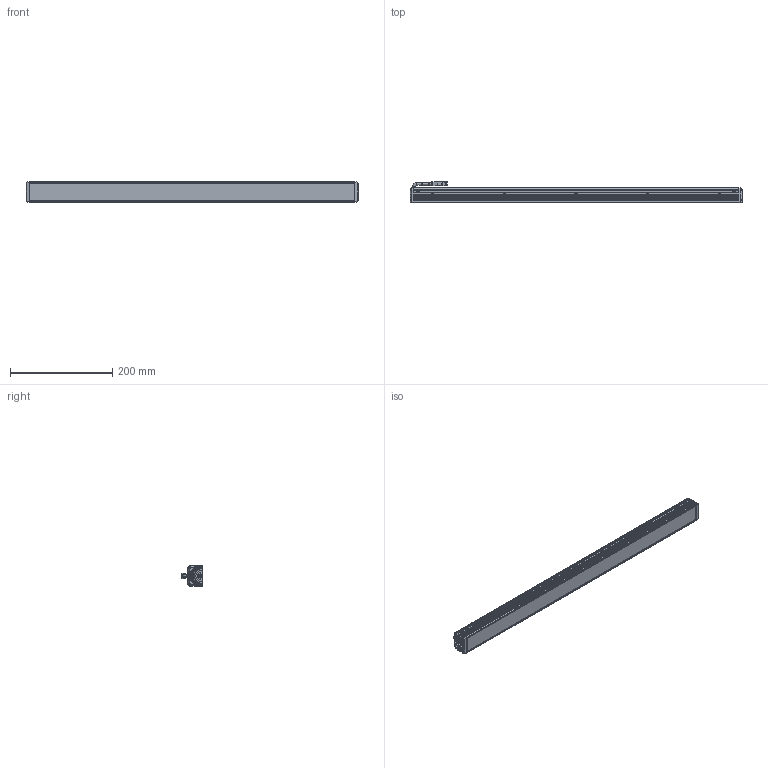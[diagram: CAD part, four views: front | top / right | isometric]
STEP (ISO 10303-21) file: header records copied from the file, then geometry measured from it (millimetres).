
FILE_DESCRIPTION((''),'2;1');
FILE_NAME('MV-LLDS-H-700-40-W-PL_ASM','2024-04-08T14:28:26',('huguozhe'),(''),'CREO PARAMETRIC BY PTC INC, 2020044','CREO PARAMETRIC BY PTC INC, 2020044','');
FILE_SCHEMA(('AUTOMOTIVE_DESIGN { 1 0 10303 214 1 1 1 1 }'));
Length unit declared in the file: millimetre
Products named in the file (15): DE-15-001239; DE-15-001238_ASM; DE-15-000520; DE-15-000519_ASM; DE-12-002350; TIP-M3X4-4_5X5-SO-ET-07061033; DE-12-002350_ASM; DE-12-001607; SC-KM2X6-BNI-GB819; XIANLAN_HEAD; CABLE_HEAD; CABLE_HEAD_ASM_ASM; 190100852; SC-PM2X6B-JMP; MV-LLDS-H-700-40-W-PL_ASM
Assembly tree (34 placements, depth 3):
  MV-LLDS-H-700-40-W-PL_ASM
    DE-15-001238_ASM
      DE-15-001239
    DE-15-000519_ASM
      DE-15-000520
    DE-12-002350_ASM  x2
      DE-12-002350
      TIP-M3X4-4_5X5-SO-ET-07061033
    DE-12-001607
    SC-KM2X6-BNI-GB819  x5
    CABLE_HEAD_ASM_ASM
      XIANLAN_HEAD
      CABLE_HEAD
    190100852  x8
    SC-PM2X6B-JMP  x8
Bounding box: 648 x 42.65 x 40 mm (x, y, z)
Volume: 602145.6 mm3; surface area: 305086.5 mm2
Topology: 32 solids, 70 shells, 2880 faces, 7430 edges, 4677 vertices
Faces by surface type: plane 1394, cylinder 605, bspline 472, cone 348, torus 52, sphere 8, extrusion 1
Entity records: 49364 total; most frequent: CARTESIAN_POINT 11461, ORIENTED_EDGE 6378, DIRECTION 6170, EDGE_CURVE 3223, VERTEX_POINT 2067, AXIS2_PLACEMENT_3D 2059, VECTOR 2052, LINE 2051
